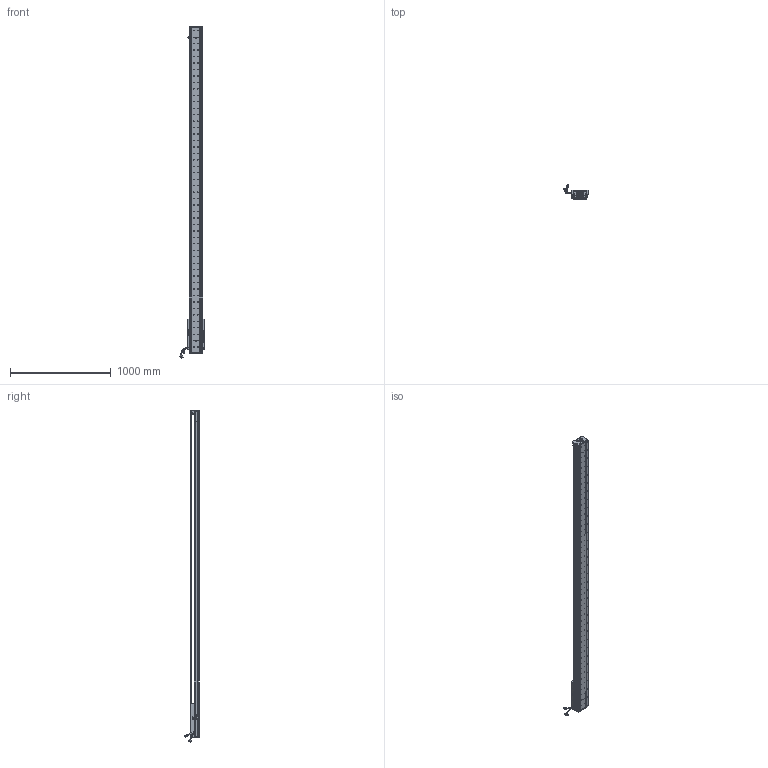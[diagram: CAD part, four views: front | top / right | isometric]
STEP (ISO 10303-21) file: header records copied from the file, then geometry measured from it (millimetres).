
FILE_DESCRIPTION (( 'STEP AP203' ), '1' );
FILE_NAME ('Z4-RY140D-1-L500-B-K.SLDASM_2850.step', '2021-05-17T08:21:41', ( '盈信电脑' ), ( '东莞市道滘镇水果街19号' ), 'SwSTEP 2.0', 'SolidWorks 2016', '' );
FILE_SCHEMA (( 'CONFIG_CONTROL_DESIGN' ));
Length unit declared in the file: millimetre
Products named in the file (36): SCALE-Part-1; 080黍杅芛假蚾釱21遴; SCREW-M1.6-1; HOLDER0; LABEL; 140蚥薯蝶輸; Z4-RY140圉猾敕臏賑輸(21遴); 詩湍狟揤裔; SEAL-Part-1; PBU_SHEET; SCALE-Part-2; PSLH080_PSLF2; Z4-RY140-L500直线电机模组底座_2850; Z4-RY140D-1-L500-B-K.SLDASM_2850; SCREW-M1.6-3; 覜茼ん672; Z4-RY140-L500詩湍100mm遵_2850; 詩湍奻揤裔; COVER; 榋妏寠巭燃_暯_M2_2; HARNESS-Part-1; LABEL-Part-1; Z-RY140感应器672光电感应片; SCREW-M1.7-1; 140雄赽晤鎢ん堤盄; 140-Z-臏賑輸盄裔(21遴); SCREW-M1.7; Z-140詩湍傷裔啣; SCREW-M1.6; SHIELDPLATE; SCALE; SEAL; HARNESS; COVER-Part-1; SCREW-M1.6-2; HARNESS-Part-2
Assembly tree (41 placements, depth 4):
  Z4-RY140D-1-L500-B-K.SLDASM_2850
    Z4-RY140-L500直线电机模组底座_2850
    Z-RY140感应器672光电感应片
    Z4-RY140圉猾敕臏賑輸(21遴)
    覜茼ん672  x3
    Z4-RY140-L500詩湍100mm遵_2850
    PSLH080_PSLF2
      SCALE
        SCALE-Part-1
        SCALE-Part-2
      HARNESS
        HARNESS-Part-1
        HARNESS-Part-2
      LABEL
        LABEL-Part-1
      COVER
        COVER-Part-1
      SEAL
        SEAL-Part-1
      榋妏寠巭燃_暯_M2_2
      SHIELDPLATE
      SCREW-M1.7
      SCREW-M1.7-1
      PBU_SHEET
      SCREW-M1.6
      SCREW-M1.6-1
      SCREW-M1.6-2
      SCREW-M1.6-3
      HOLDER0
    080黍杅芛假蚾釱21遴
    140-Z-臏賑輸盄裔(21遴)
    Z-140詩湍傷裔啣  x2
    詩湍狟揤裔  x2
    詩湍奻揤裔  x2
    140蚥薯蝶輸  x2
    140雄赽晤鎢ん堤盄
Bounding box: 239.79 x 143.88 x 3290.87 mm (x, y, z)
Volume: 10509833.2 mm3; surface area: 2723930.5 mm2
Topology: 36 solids, 36 shells, 4630 faces, 12704 edges, 8051 vertices
Faces by surface type: cylinder 2594, plane 1468, cone 446, torus 69, bspline 53
Entity records: 150096 total; most frequent: CARTESIAN_POINT 43581, ORIENTED_EDGE 22240, DIRECTION 20228, EDGE_CURVE 11120, AXIS2_PLACEMENT_3D 7546, VERTEX_POINT 7219, VECTOR 5136, LINE 5136
